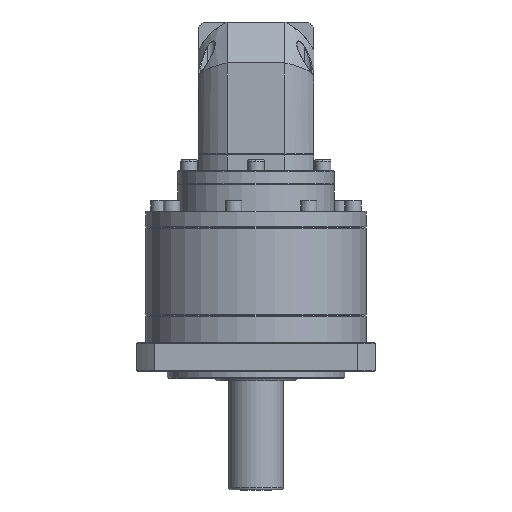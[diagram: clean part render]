
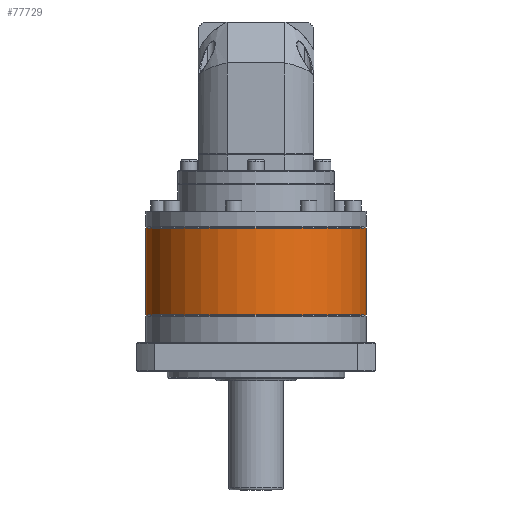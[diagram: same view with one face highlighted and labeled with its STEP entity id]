
A CAD part, front view. The second image highlights one B-rep face of the part: STEP entity #77729.
In plain terms, the highlighted cylindrical face has radius 81 mm (diameter 162 mm), a partial arc.
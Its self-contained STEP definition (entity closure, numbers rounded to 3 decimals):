
#1566 = DIRECTION ( 'NONE',  ( 0., 0., -1. ) ) ;
#6928 = LINE ( 'NONE', #53288, #95745 ) ;
#8205 = LINE ( 'NONE', #116997, #82481 ) ;
#10467 = VERTEX_POINT ( 'NONE', #131753 ) ;
#17605 = CARTESIAN_POINT ( 'NONE',  ( -146.599, 169.077, -65.529 ) ) ;
#21333 = AXIS2_PLACEMENT_3D ( 'NONE', #82529, #116920, #103910 ) ;
#30506 = ORIENTED_EDGE ( 'NONE', *, *, #49850, .F. ) ;
#37632 = EDGE_CURVE ( 'NONE', #10467, #134475, #8205, .T. ) ;
#40413 = ORIENTED_EDGE ( 'NONE', *, *, #147904, .T. ) ;
#45242 = ORIENTED_EDGE ( 'NONE', *, *, #37632, .T. ) ;
#46987 = CARTESIAN_POINT ( 'NONE',  ( -65.599, 169.077, -129.029 ) ) ;
#49850 = EDGE_CURVE ( 'NONE', #77944, #71985, #6928, .T. ) ;
#50445 = AXIS2_PLACEMENT_3D ( 'NONE', #17605, #74867, #98695 ) ;
#53288 = CARTESIAN_POINT ( 'NONE',  ( -65.599, 169.077, -65.029 ) ) ;
#71985 = VERTEX_POINT ( 'NONE', #46987 ) ;
#74867 = DIRECTION ( 'NONE',  ( 0., 0., -1. ) ) ;
#77729 = ADVANCED_FACE ( 'NONE', ( #124559 ), #130108, .T. ) ;
#77944 = VERTEX_POINT ( 'NONE', #105376 ) ;
#80905 = CARTESIAN_POINT ( 'NONE',  ( -146.599, 169.077, -65.029 ) ) ;
#82481 = VECTOR ( 'NONE', #1566, 1000. ) ;
#82529 = CARTESIAN_POINT ( 'NONE',  ( -146.599, 169.077, -129.029 ) ) ;
#82911 = DIRECTION ( 'NONE',  ( 0., 0., -1. ) ) ;
#95745 = VECTOR ( 'NONE', #111119, 1000. ) ;
#97454 = EDGE_CURVE ( 'NONE', #77944, #10467, #102167, .T. ) ;
#98695 = DIRECTION ( 'NONE',  ( -1., 0., 0. ) ) ;
#102167 = CIRCLE ( 'NONE', #50445, 81. ) ;
#103910 = DIRECTION ( 'NONE',  ( -1., 0., 0. ) ) ;
#105376 = CARTESIAN_POINT ( 'NONE',  ( -65.599, 169.077, -65.529 ) ) ;
#111119 = DIRECTION ( 'NONE',  ( 0., 0., -1. ) ) ;
#116920 = DIRECTION ( 'NONE',  ( 0., 0., 1. ) ) ;
#116997 = CARTESIAN_POINT ( 'NONE',  ( -227.599, 169.077, -65.029 ) ) ;
#124559 = FACE_OUTER_BOUND ( 'NONE', #129372, .T. ) ;
#127948 = CIRCLE ( 'NONE', #21333, 81. ) ;
#129372 = EDGE_LOOP ( 'NONE', ( #30506, #147819, #45242, #40413 ) ) ;
#130108 = CYLINDRICAL_SURFACE ( 'NONE', #145750, 81. ) ;
#131753 = CARTESIAN_POINT ( 'NONE',  ( -227.599, 169.077, -65.529 ) ) ;
#134475 = VERTEX_POINT ( 'NONE', #144849 ) ;
#140171 = DIRECTION ( 'NONE',  ( -1., 0., 0. ) ) ;
#144849 = CARTESIAN_POINT ( 'NONE',  ( -227.599, 169.077, -129.029 ) ) ;
#145750 = AXIS2_PLACEMENT_3D ( 'NONE', #80905, #82911, #140171 ) ;
#147819 = ORIENTED_EDGE ( 'NONE', *, *, #97454, .T. ) ;
#147904 = EDGE_CURVE ( 'NONE', #134475, #71985, #127948, .T. ) ;
